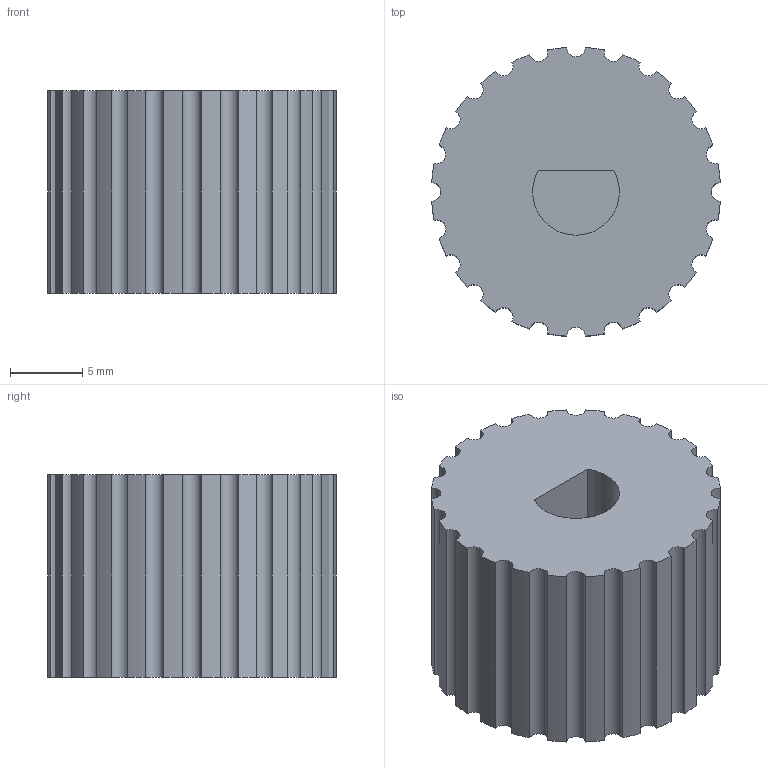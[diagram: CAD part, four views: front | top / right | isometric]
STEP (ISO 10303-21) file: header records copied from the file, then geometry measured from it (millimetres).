
FILE_DESCRIPTION(('Open CASCADE Model'),'2;1');
FILE_NAME('Open CASCADE Shape Model','2026-09-13T14:28:44',('Author'),( 'Open CASCADE'),'Open CASCADE STEP processor 7.9','Open CASCADE 7.9' ,'Unknown');
FILE_SCHEMA(('AUTOMOTIVE_DESIGN { 1 0 10303 214 1 1 1 1 }'));
Length unit declared in the file: millimetre
Products named in the file (1): Open CASCADE STEP translator 7.9 18
Bounding box: 19.96 x 19.96 x 14 mm (x, y, z)
Volume: 3925 mm3; surface area: 1914.1 mm2
Topology: 1 solids, 1 shells, 58 faces, 162 edges, 108 vertices
Faces by surface type: cylinder 49, plane 9
Entity records: 3969 total; most frequent: CARTESIAN_POINT 841, DIRECTION 579, ORIENTED_EDGE 324, PCURVE 324, DEFINITIONAL_REPRESENTATION 324, CIRCLE 183, LINE 180, VECTOR 180
